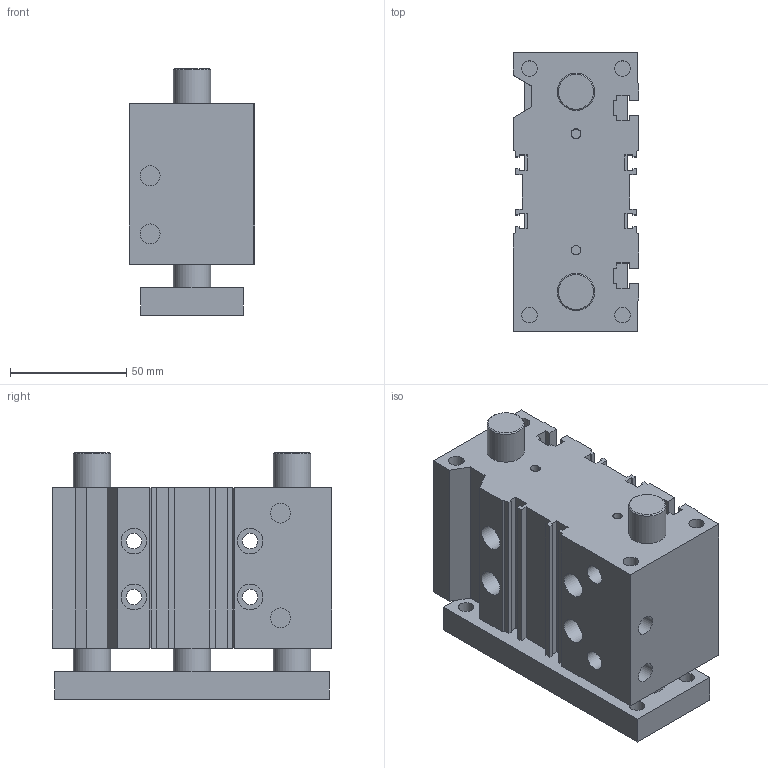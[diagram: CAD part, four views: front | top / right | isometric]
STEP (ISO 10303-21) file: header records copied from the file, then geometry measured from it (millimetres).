
FILE_DESCRIPTION((''),'2;1');
FILE_NAME('I:\Area Tecnica\Disegni\VARIE-3D\Componenti\6100\6100 Ø20-63\6100_##_###_#\6100400025C.stp','2012-01-11T09:05:14',('airolcr1'),(''),'Autodesk Inventor 2012','Autodesk Inventor 2012','');
FILE_SCHEMA(('AUTOMOTIVE_DESIGN { 1 0 10303 214 1 1 1 1 }'));
Length unit declared in the file: millimetre
Products named in the file (3): 6100400025C; CUCORPO Ø40 C25 C; CUPIASTRA Ø40 C25 C
Assembly tree (2 placements, depth 2):
  6100400025C
    CUCORPO Ø40 C25 C
    CUPIASTRA Ø40 C25 C
Bounding box: 54 x 120 x 106 mm (x, y, z)
Volume: 465102.9 mm3; surface area: 86275.9 mm2
Topology: 2 solids, 2 shells, 166 faces, 417 edges, 277 vertices
Faces by surface type: plane 126, cylinder 38, cone 2
Full cylindrical faces by diameter (mm): 4 x6, 6.647 x8, 6.65 x4, 8.566 x4, 11 x4, 16 x6
Entity records: 5013 total; most frequent: CARTESIAN_POINT 815, DIRECTION 798, ORIENTED_EDGE 750, EDGE_CURVE 375, VECTOR 294, LINE 294, VERTEX_POINT 269, AXIS2_PLACEMENT_3D 252
